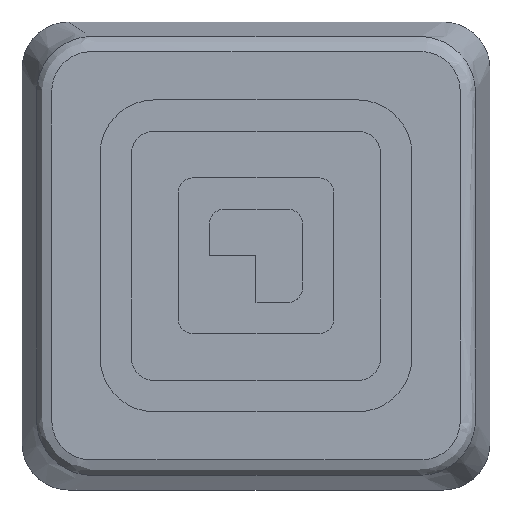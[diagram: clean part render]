
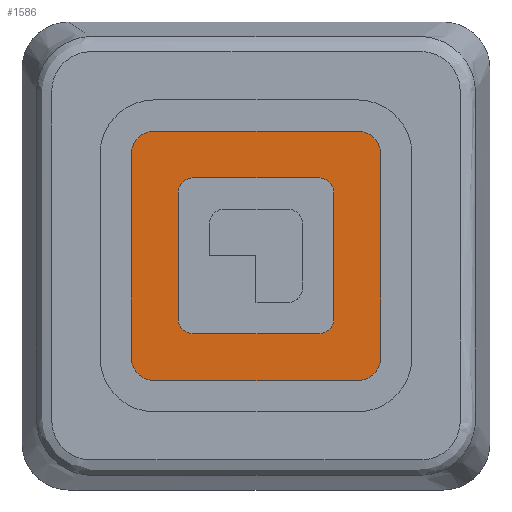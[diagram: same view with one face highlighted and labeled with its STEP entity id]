
A CAD part, top view. The second image highlights one B-rep face of the part: STEP entity #1586.
In plain terms, the highlighted planar face has unit normal (0, 0, 1).
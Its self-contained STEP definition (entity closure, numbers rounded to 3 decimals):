
#29=FACE_BOUND('',#234,.T.);
#34=CIRCLE('',#1647,0.75);
#36=CIRCLE('',#1651,0.75);
#38=CIRCLE('',#1655,0.75);
#40=CIRCLE('',#1659,0.75);
#56=CIRCLE('',#1695,0.5);
#58=CIRCLE('',#1699,0.5);
#60=CIRCLE('',#1703,0.5);
#62=CIRCLE('',#1707,0.5);
#139=FACE_OUTER_BOUND('',#233,.T.);
#233=EDGE_LOOP('',(#1187,#1188,#1189,#1190,#1191,#1192,#1193,#1194));
#234=EDGE_LOOP('',(#1195,#1196,#1197,#1198,#1199,#1200,#1201,#1202));
#295=LINE('',#2236,#469);
#300=LINE('',#2250,#474);
#304=LINE('',#2262,#478);
#308=LINE('',#2274,#482);
#348=LINE('',#2387,#522);
#353=LINE('',#2401,#527);
#357=LINE('',#2413,#531);
#361=LINE('',#2425,#535);
#469=VECTOR('',#1786,10.);
#474=VECTOR('',#1799,10.);
#478=VECTOR('',#1811,10.);
#482=VECTOR('',#1823,10.);
#522=VECTOR('',#1935,10.);
#527=VECTOR('',#1948,10.);
#531=VECTOR('',#1960,10.);
#535=VECTOR('',#1972,10.);
#643=VERTEX_POINT('',#2234);
#644=VERTEX_POINT('',#2235);
#647=VERTEX_POINT('',#2243);
#649=VERTEX_POINT('',#2249);
#651=VERTEX_POINT('',#2255);
#653=VERTEX_POINT('',#2261);
#655=VERTEX_POINT('',#2267);
#657=VERTEX_POINT('',#2273);
#693=VERTEX_POINT('',#2385);
#694=VERTEX_POINT('',#2386);
#697=VERTEX_POINT('',#2394);
#699=VERTEX_POINT('',#2400);
#701=VERTEX_POINT('',#2406);
#703=VERTEX_POINT('',#2412);
#705=VERTEX_POINT('',#2418);
#707=VERTEX_POINT('',#2424);
#791=EDGE_CURVE('',#643,#644,#295,.T.);
#795=EDGE_CURVE('',#647,#643,#34,.T.);
#798=EDGE_CURVE('',#649,#647,#300,.T.);
#801=EDGE_CURVE('',#651,#649,#36,.T.);
#804=EDGE_CURVE('',#653,#651,#304,.T.);
#807=EDGE_CURVE('',#655,#653,#38,.T.);
#810=EDGE_CURVE('',#657,#655,#308,.T.);
#813=EDGE_CURVE('',#644,#657,#40,.T.);
#866=EDGE_CURVE('',#693,#694,#348,.T.);
#870=EDGE_CURVE('',#697,#693,#56,.T.);
#873=EDGE_CURVE('',#699,#697,#353,.T.);
#876=EDGE_CURVE('',#701,#699,#58,.T.);
#879=EDGE_CURVE('',#703,#701,#357,.T.);
#882=EDGE_CURVE('',#705,#703,#60,.T.);
#885=EDGE_CURVE('',#707,#705,#361,.T.);
#888=EDGE_CURVE('',#694,#707,#62,.T.);
#1187=ORIENTED_EDGE('',*,*,#791,.T.);
#1188=ORIENTED_EDGE('',*,*,#813,.T.);
#1189=ORIENTED_EDGE('',*,*,#810,.T.);
#1190=ORIENTED_EDGE('',*,*,#807,.T.);
#1191=ORIENTED_EDGE('',*,*,#804,.T.);
#1192=ORIENTED_EDGE('',*,*,#801,.T.);
#1193=ORIENTED_EDGE('',*,*,#798,.T.);
#1194=ORIENTED_EDGE('',*,*,#795,.T.);
#1195=ORIENTED_EDGE('',*,*,#866,.T.);
#1196=ORIENTED_EDGE('',*,*,#888,.T.);
#1197=ORIENTED_EDGE('',*,*,#885,.T.);
#1198=ORIENTED_EDGE('',*,*,#882,.T.);
#1199=ORIENTED_EDGE('',*,*,#879,.T.);
#1200=ORIENTED_EDGE('',*,*,#876,.T.);
#1201=ORIENTED_EDGE('',*,*,#873,.T.);
#1202=ORIENTED_EDGE('',*,*,#870,.T.);
#1504=PLANE('',#1710);
#1586=ADVANCED_FACE('',(#139,#29),#1504,.T.);
#1647=AXIS2_PLACEMENT_3D('',#2244,#1792,#1793);
#1651=AXIS2_PLACEMENT_3D('',#2256,#1804,#1805);
#1655=AXIS2_PLACEMENT_3D('',#2268,#1816,#1817);
#1659=AXIS2_PLACEMENT_3D('',#2279,#1828,#1829);
#1695=AXIS2_PLACEMENT_3D('',#2395,#1941,#1942);
#1699=AXIS2_PLACEMENT_3D('',#2407,#1953,#1954);
#1703=AXIS2_PLACEMENT_3D('',#2419,#1965,#1966);
#1707=AXIS2_PLACEMENT_3D('',#2430,#1977,#1978);
#1710=AXIS2_PLACEMENT_3D('',#2433,#1983,#1984);
#1786=DIRECTION('',(1.,0.,0.));
#1792=DIRECTION('center_axis',(0.,0.,1.));
#1793=DIRECTION('ref_axis',(-1.,0.,0.));
#1799=DIRECTION('',(0.,-1.,0.));
#1804=DIRECTION('center_axis',(0.,0.,1.));
#1805=DIRECTION('ref_axis',(0.,1.,0.));
#1811=DIRECTION('',(-1.,0.,0.));
#1816=DIRECTION('center_axis',(0.,0.,1.));
#1817=DIRECTION('ref_axis',(1.,0.,0.));
#1823=DIRECTION('',(0.,1.,0.));
#1828=DIRECTION('center_axis',(0.,0.,1.));
#1829=DIRECTION('ref_axis',(0.,-1.,0.));
#1935=DIRECTION('',(0.,-1.,0.));
#1941=DIRECTION('center_axis',(0.,0.,-1.));
#1942=DIRECTION('ref_axis',(1.,0.,0.));
#1948=DIRECTION('',(1.,0.,0.));
#1953=DIRECTION('center_axis',(0.,0.,-1.));
#1954=DIRECTION('ref_axis',(0.,1.,0.));
#1960=DIRECTION('',(0.,1.,0.));
#1965=DIRECTION('center_axis',(0.,0.,-1.));
#1966=DIRECTION('ref_axis',(-1.,0.,0.));
#1972=DIRECTION('',(-1.,0.,0.));
#1977=DIRECTION('center_axis',(0.,0.,-1.));
#1978=DIRECTION('ref_axis',(0.,-1.,0.));
#1983=DIRECTION('center_axis',(0.,0.,1.));
#1984=DIRECTION('ref_axis',(1.,0.,0.));
#2234=CARTESIAN_POINT('',(62.75,-11.5,25.8));
#2235=CARTESIAN_POINT('',(69.25,-11.5,25.8));
#2236=CARTESIAN_POINT('',(64.58,-11.5,25.8));
#2243=CARTESIAN_POINT('',(62.,-10.75,25.8));
#2244=CARTESIAN_POINT('Origin',(62.75,-10.75,25.8));
#2249=CARTESIAN_POINT('',(62.,-4.25,25.8));
#2250=CARTESIAN_POINT('',(62.,-5.58,25.8));
#2255=CARTESIAN_POINT('',(62.75,-3.5,25.8));
#2256=CARTESIAN_POINT('Origin',(62.75,-4.25,25.8));
#2261=CARTESIAN_POINT('',(69.25,-3.5,25.8));
#2262=CARTESIAN_POINT('',(67.83,-3.5,25.8));
#2267=CARTESIAN_POINT('',(70.,-4.25,25.8));
#2268=CARTESIAN_POINT('Origin',(69.25,-4.25,25.8));
#2273=CARTESIAN_POINT('',(70.,-10.75,25.8));
#2274=CARTESIAN_POINT('',(70.,-8.83,25.8));
#2279=CARTESIAN_POINT('Origin',(69.25,-10.75,25.8));
#2385=CARTESIAN_POINT('',(68.5,-5.5,25.8));
#2386=CARTESIAN_POINT('',(68.5,-9.5,25.8));
#2387=CARTESIAN_POINT('',(68.5,-6.205,25.8));
#2394=CARTESIAN_POINT('',(68.,-5.,25.8));
#2395=CARTESIAN_POINT('Origin',(68.,-5.5,25.8));
#2400=CARTESIAN_POINT('',(64.,-5.,25.8));
#2401=CARTESIAN_POINT('',(65.205,-5.,25.8));
#2406=CARTESIAN_POINT('',(63.5,-5.5,25.8));
#2407=CARTESIAN_POINT('Origin',(64.,-5.5,25.8));
#2412=CARTESIAN_POINT('',(63.5,-9.5,25.8));
#2413=CARTESIAN_POINT('',(63.5,-8.205,25.8));
#2418=CARTESIAN_POINT('',(64.,-10.,25.8));
#2419=CARTESIAN_POINT('Origin',(64.,-9.5,25.8));
#2424=CARTESIAN_POINT('',(68.,-10.,25.8));
#2425=CARTESIAN_POINT('',(67.205,-10.,25.8));
#2430=CARTESIAN_POINT('Origin',(68.,-9.5,25.8));
#2433=CARTESIAN_POINT('Origin',(66.409,-6.909,25.8));
